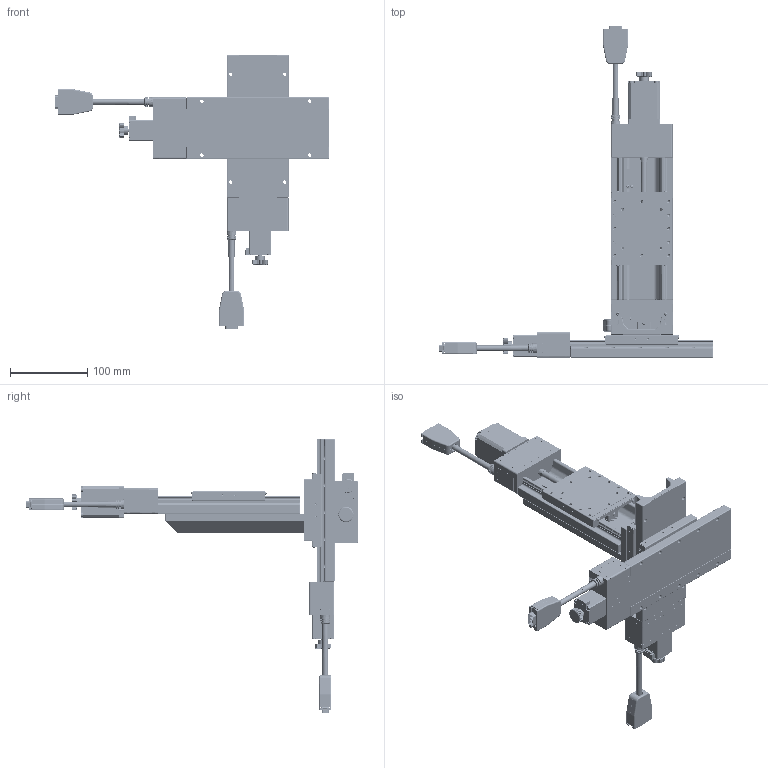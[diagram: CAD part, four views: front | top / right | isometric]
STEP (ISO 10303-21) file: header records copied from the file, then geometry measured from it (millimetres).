
FILE_DESCRIPTION (( 'STEP AP203' ), '1' );
FILE_NAME ('CXYZN8075-S2?N.STEP', '2023-10-03T00:15:28', ( '' ), ( '' ), 'SwSTEP 2.0', 'SolidWorks 2019', '' );
FILE_SCHEMA (( 'CONFIG_CONTROL_DESIGN' ));
Length unit declared in the file: millimetre
Products named in the file (9): CXYZN8075-S2?N; CZLN8075-S2?N.STEP; CXN80_GMT.STEP_GMT; CXN8075-S2?N.STEP; Group1^CXN8075-S2_N(2023_s__)_defeature_GMT.STEP_GMT; Group1^CZLN8075-S2_N(2023_s__)_defeature_GMT.STEP_GMT; Group2^CZLN8075-S2_N(2023_s__)_defeature_GMT.STEP_GMT; Group2^CXN8075-S2_N(2023_s__)_defeature_GMT.STEP_GMT
Assembly tree (12 placements, depth 3):
  CXYZN8075-S2?N
    CZLN8075-S2?N.STEP
      Group1^CZLN8075-S2_N(2023_s__)_defeature_GMT.STEP_GMT
      Group2^CZLN8075-S2_N(2023_s__)_defeature_GMT.STEP_GMT
      CXN80_GMT.STEP_GMT
    CXN8075-S2?N.STEP
      Group1^CXN8075-S2_N(2023_s__)_defeature_GMT.STEP_GMT
      Group2^CXN8075-S2_N(2023_s__)_defeature_GMT.STEP_GMT
      CXN80_GMT.STEP_GMT
    CXN8075-S2?N.STEP
      Group1^CXN8075-S2_N(2023_s__)_defeature_GMT.STEP_GMT
      Group2^CXN8075-S2_N(2023_s__)_defeature_GMT.STEP_GMT
      CXN80_GMT.STEP_GMT
Bounding box: 355.6 x 430.6 x 355.6 mm (x, y, z)
Volume: 180047.6 mm3; surface area: 455754.3 mm2
Topology: 70 solids, 104 shells, 12780 faces, 33429 edges, 20661 vertices
Faces by surface type: plane 4731, cylinder 3858, cone 1631, torus 1320, bspline 774, sphere 466
Entity records: 313913 total; most frequent: CARTESIAN_POINT 133782, ORIENTED_EDGE 43066, DIRECTION 28941, EDGE_CURVE 21649, VERTEX_POINT 13619, B_SPLINE_CURVE_WITH_KNOTS 13154, AXIS2_PLACEMENT_3D 12782, EDGE_LOOP 8808
